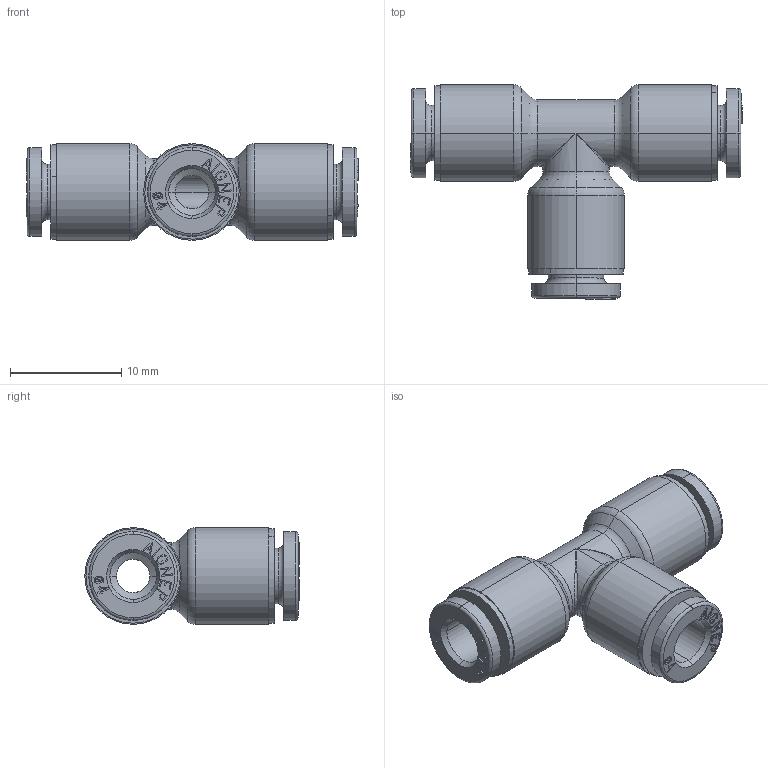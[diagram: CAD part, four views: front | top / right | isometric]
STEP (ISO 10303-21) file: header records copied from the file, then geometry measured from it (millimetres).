
FILE_DESCRIPTION (( 'STEP AP214' ), '1' );
FILE_NAME ('5423000002A.STEP', '2024-09-20T10:19:11', ( '' ), ( '' ), 'SwSTEP 2.0', 'SolidWorks 2020', '' );
FILE_SCHEMA (( 'AUTOMOTIVE_DESIGN' ));
Length unit declared in the file: millimetre
Products named in the file (1): 5423000002A
Bounding box: 29.9 x 19.3 x 8.7 mm (x, y, z)
Volume: 1451.6 mm3; surface area: 1887.3 mm2
Topology: 1 solids, 1 shells, 686 faces, 1859 edges, 1218 vertices
Faces by surface type: plane 417, bspline 188, cylinder 39, torus 24, cone 18
Entity records: 31673 total; most frequent: CARTESIAN_POINT 8036, ORIENTED_EDGE 3710, DIRECTION 2605, EDGE_CURVE 1855, VECTOR 1343, LINE 1343, VERTEX_POINT 1218, EDGE_LOOP 737
